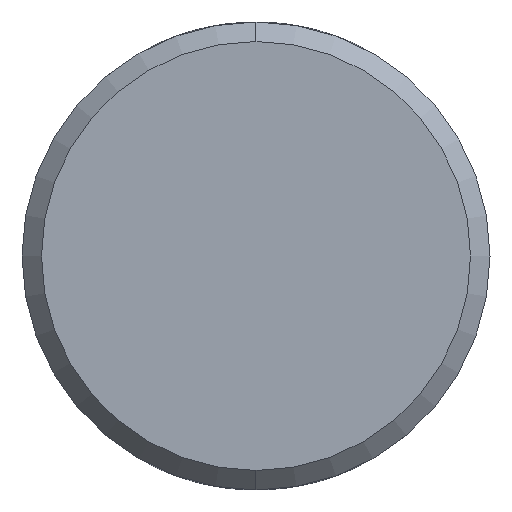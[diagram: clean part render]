
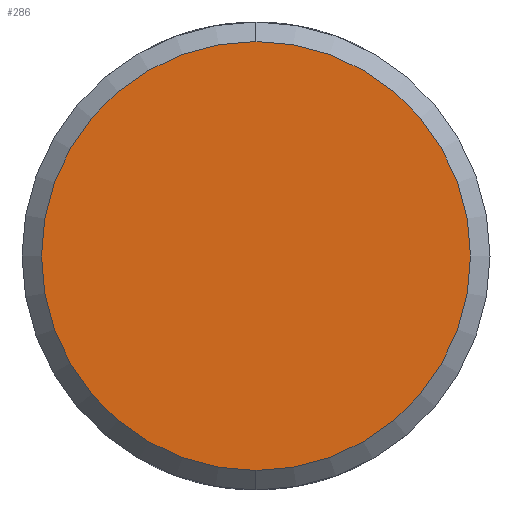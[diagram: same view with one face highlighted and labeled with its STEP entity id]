
A CAD part, left-side view. The second image highlights one B-rep face of the part: STEP entity #286.
In plain terms, the highlighted planar face has unit normal (-1, 0, 0).
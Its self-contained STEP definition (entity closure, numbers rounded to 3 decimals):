
#8 = CARTESIAN_POINT ( 'NONE',  ( -54.5, 0., 0. ) ) ;
#42 = VERTEX_POINT ( 'NONE', #128 ) ;
#45 = EDGE_LOOP ( 'NONE', ( #318, #89 ) ) ;
#52 = DIRECTION ( 'NONE',  ( 1., 0., 0. ) ) ;
#89 = ORIENTED_EDGE ( 'NONE', *, *, #626, .T. ) ;
#128 = CARTESIAN_POINT ( 'NONE',  ( -54.5, 0., -5.5 ) ) ;
#231 = DIRECTION ( 'NONE',  ( -1., 0., 0. ) ) ;
#277 = CIRCLE ( 'NONE', #315, 5.5 ) ;
#286 = ADVANCED_FACE ( 'NONE', ( #604 ), #819, .F. ) ;
#296 = CARTESIAN_POINT ( 'NONE',  ( -54.5, 0., 0. ) ) ;
#315 = AXIS2_PLACEMENT_3D ( 'NONE', #8, #699, #957 ) ;
#318 = ORIENTED_EDGE ( 'NONE', *, *, #691, .T. ) ;
#348 = CARTESIAN_POINT ( 'NONE',  ( -54.5, 0., 5.5 ) ) ;
#426 = AXIS2_PLACEMENT_3D ( 'NONE', #296, #231, #937 ) ;
#604 = FACE_OUTER_BOUND ( 'NONE', #45, .T. ) ;
#626 = EDGE_CURVE ( 'NONE', #732, #42, #709, .T. ) ;
#691 = EDGE_CURVE ( 'NONE', #42, #732, #277, .T. ) ;
#699 = DIRECTION ( 'NONE',  ( -1., 0., 0. ) ) ;
#709 = CIRCLE ( 'NONE', #426, 5.5 ) ;
#732 = VERTEX_POINT ( 'NONE', #348 ) ;
#819 = PLANE ( 'NONE',  #928 ) ;
#827 = DIRECTION ( 'NONE',  ( 0., 0., -1. ) ) ;
#928 = AXIS2_PLACEMENT_3D ( 'NONE', #982, #52, #827 ) ;
#937 = DIRECTION ( 'NONE',  ( 0., 0., -1. ) ) ;
#957 = DIRECTION ( 'NONE',  ( 0., 0., -1. ) ) ;
#982 = CARTESIAN_POINT ( 'NONE',  ( -54.5, 0., 0. ) ) ;
